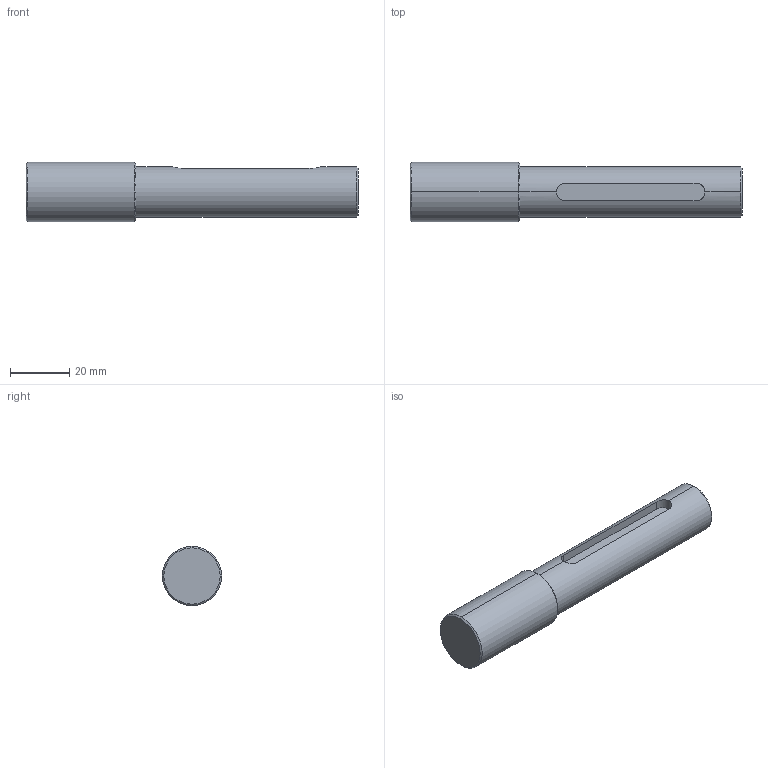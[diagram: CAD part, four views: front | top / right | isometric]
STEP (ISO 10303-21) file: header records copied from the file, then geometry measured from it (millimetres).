
FILE_DESCRIPTION (( 'STEP AP214' ), '1' );
FILE_NAME ('1.8050 Akseli GL 20_17 L111.9 kiila 6x50.STEP', '2024-03-15T11:36:36', ( '' ), ( '' ), 'SwSTEP 2.0', 'SolidWorks 2024', '' );
FILE_SCHEMA (( 'AUTOMOTIVE_DESIGN' ));
Length unit declared in the file: millimetre
Products named in the file (1): 1.8050 Akseli GL 20_17 L111.9 kiila 6x50
Bounding box: 111.9 x 20 x 20 mm (x, y, z)
Volume: 27032.2 mm3; surface area: 7688.8 mm2
Topology: 1 solids, 1 shells, 23 faces, 51 edges, 30 vertices
Faces by surface type: cylinder 9, cone 8, plane 6
Entity records: 699 total; most frequent: CARTESIAN_POINT 167, DIRECTION 114, ORIENTED_EDGE 98, EDGE_CURVE 49, AXIS2_PLACEMENT_3D 45, VERTEX_POINT 30, EDGE_LOOP 25, LINE 24
